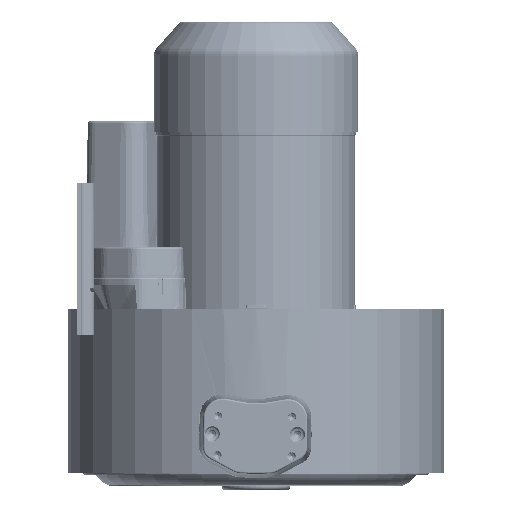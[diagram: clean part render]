
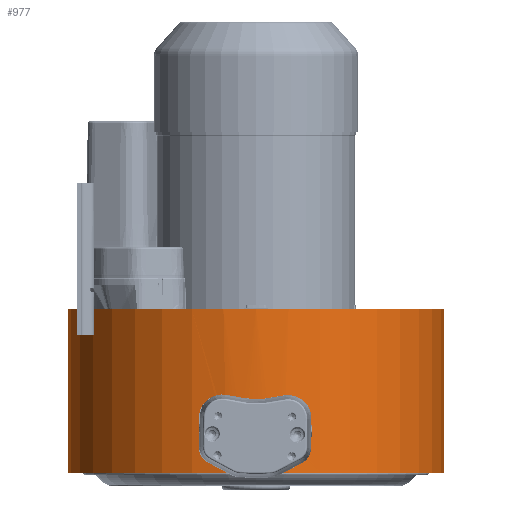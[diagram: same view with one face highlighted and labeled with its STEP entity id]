
A CAD part, left-side view. The second image highlights one B-rep face of the part: STEP entity #977.
In plain terms, the highlighted cylindrical face has radius 161 mm (diameter 322 mm), a partial arc.
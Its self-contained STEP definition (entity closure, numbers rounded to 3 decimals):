
#173=CARTESIAN_POINT('',(0.,0.,58.45));
#174=DIRECTION('',(0.,0.,-1.));
#175=DIRECTION('',(0.,-1.,0.));
#176=AXIS2_PLACEMENT_3D('',#173,#174,#175);
#178=CARTESIAN_POINT('',(-158.883,-26.024,
-50.286));
#179=CARTESIAN_POINT('',(-158.883,-26.024,
-48.388));
#180=CARTESIAN_POINT('',(-158.948,-25.631,
-44.682));
#181=CARTESIAN_POINT('',(-159.224,-23.886,
-39.287));
#182=CARTESIAN_POINT('',(-159.63,-21.049,
-34.383));
#183=CARTESIAN_POINT('',(-160.088,-17.29,
-30.202));
#184=CARTESIAN_POINT('',(-160.524,-12.692,
-26.86));
#185=CARTESIAN_POINT('',(-160.853,-7.559,
-24.569));
#186=CARTESIAN_POINT('',(-161.021,-1.976,
-23.381));
#187=CARTESIAN_POINT('',(-160.992,3.655,-23.382));
#188=CARTESIAN_POINT('',(-160.765,9.238,-24.574));
#189=CARTESIAN_POINT('',(-160.382,14.373,-26.87));
#190=CARTESIAN_POINT('',(-159.898,18.965,-30.214));
#191=CARTESIAN_POINT('',(-159.4,22.721,-34.399));
#192=CARTESIAN_POINT('',(-158.965,25.549,-39.296));
#193=CARTESIAN_POINT('',(-158.671,27.291,-44.689));
#194=CARTESIAN_POINT('',(-158.602,27.683,-48.39));
#195=CARTESIAN_POINT('',(-158.602,27.683,-50.286));
#197=CARTESIAN_POINT('',(-158.602,27.683,-50.286));
#198=CARTESIAN_POINT('',(-158.602,27.683,-52.185));
#199=CARTESIAN_POINT('',(-158.672,27.29,-55.89));
#200=CARTESIAN_POINT('',(-158.966,25.547,-61.283));
#201=CARTESIAN_POINT('',(-159.401,22.713,-66.185));
#202=CARTESIAN_POINT('',(-159.899,18.957,-70.366));
#203=CARTESIAN_POINT('',(-160.383,14.362,-73.709));
#204=CARTESIAN_POINT('',(-160.766,9.229,-76.001));
#205=CARTESIAN_POINT('',(-160.992,3.646,-77.191));
#206=CARTESIAN_POINT('',(-161.021,-1.985,
-77.191));
#207=CARTESIAN_POINT('',(-160.852,-7.568,
-76.001));
#208=CARTESIAN_POINT('',(-160.523,-12.704,
-73.706));
#209=CARTESIAN_POINT('',(-160.087,-17.298,
-70.363));
#210=CARTESIAN_POINT('',(-159.629,-21.057,
-66.178));
#211=CARTESIAN_POINT('',(-159.223,-23.889,
-61.279));
#212=CARTESIAN_POINT('',(-158.948,-25.633,
-55.883));
#213=CARTESIAN_POINT('',(-158.883,-26.024,
-52.182));
#214=CARTESIAN_POINT('',(-158.883,-26.024,
-50.286));
#216=DIRECTION('',(0.,0.,-1.));
#217=VECTOR('',#216,140.);
#218=CARTESIAN_POINT('',(0.,-161.,58.45));
#219=LINE('',#218,#217);
#225=DIRECTION('',(0.,0.,-1.));
#226=VECTOR('',#225,140.);
#227=CARTESIAN_POINT('',(0.,161.,
58.45));
#228=LINE('',#227,#226);
#234=CARTESIAN_POINT('',(0.,0.,-81.55));
#235=DIRECTION('',(0.,0.,-1.));
#236=DIRECTION('',(0.,-1.,0.));
#237=AXIS2_PLACEMENT_3D('',#234,#235,#236);
#595=CARTESIAN_POINT('',(0.,-161.,58.45));
#596=CARTESIAN_POINT('',(0.,-161.,-81.55));
#597=VERTEX_POINT('',#595);
#598=VERTEX_POINT('',#596);
#637=CARTESIAN_POINT('',(0.,161.,
58.45));
#638=CARTESIAN_POINT('',(0.,161.,
-81.55));
#639=VERTEX_POINT('',#637);
#640=VERTEX_POINT('',#638);
#701=VERTEX_POINT('',#178);
#702=VERTEX_POINT('',#195);
#957=CARTESIAN_POINT('',(0.,0.,324.763));
#958=DIRECTION('',(0.,0.,-1.));
#959=DIRECTION('',(0.,-1.,0.));
#960=AXIS2_PLACEMENT_3D('',#957,#958,#959);
#961=CYLINDRICAL_SURFACE('',#960,161.);
#963=ORIENTED_EDGE('',*,*,#962,.T.);
#965=ORIENTED_EDGE('',*,*,#964,.T.);
#967=ORIENTED_EDGE('',*,*,#966,.F.);
#968=ORIENTED_EDGE('',*,*,#940,.F.);
#969=EDGE_LOOP('',(#963,#965,#967,#968));
#970=FACE_OUTER_BOUND('',#969,.F.);
#972=ORIENTED_EDGE('',*,*,#971,.T.);
#974=ORIENTED_EDGE('',*,*,#973,.T.);
#975=EDGE_LOOP('',(#972,#974));
#976=FACE_BOUND('',#975,.F.);
#177=CIRCLE('',#176,161.);
#196=B_SPLINE_CURVE_WITH_KNOTS('',3,(#178,#179,#180,#181,#182,#183,#184,#185,
#186,#187,#188,#189,#190,#191,#192,#193,#194,#195),.UNSPECIFIED.,.F.,.F.,(4,1,1,
1,1,1,1,1,1,1,1,1,1,1,1,4),(0.,0.067,0.133,0.2,
0.267,0.333,0.4,0.467,0.533,
0.6,0.667,0.733,0.8,0.867,
0.933,1.),.UNSPECIFIED.);
#215=B_SPLINE_CURVE_WITH_KNOTS('',3,(#197,#198,#199,#200,#201,#202,#203,#204,
#205,#206,#207,#208,#209,#210,#211,#212,#213,#214),.UNSPECIFIED.,.F.,.F.,(4,1,1,
1,1,1,1,1,1,1,1,1,1,1,1,4),(0.,0.067,0.133,0.2,
0.267,0.333,0.4,0.467,0.533,
0.6,0.667,0.733,0.8,0.867,
0.933,1.),.UNSPECIFIED.);
#238=CIRCLE('',#237,161.);
#940=EDGE_CURVE('',#597,#639,#177,.T.);
#962=EDGE_CURVE('',#597,#598,#219,.T.);
#964=EDGE_CURVE('',#598,#640,#238,.T.);
#966=EDGE_CURVE('',#639,#640,#228,.T.);
#971=EDGE_CURVE('',#701,#702,#196,.T.);
#973=EDGE_CURVE('',#702,#701,#215,.T.);
#977=ADVANCED_FACE('',(#970,#976),#961,.T.);
